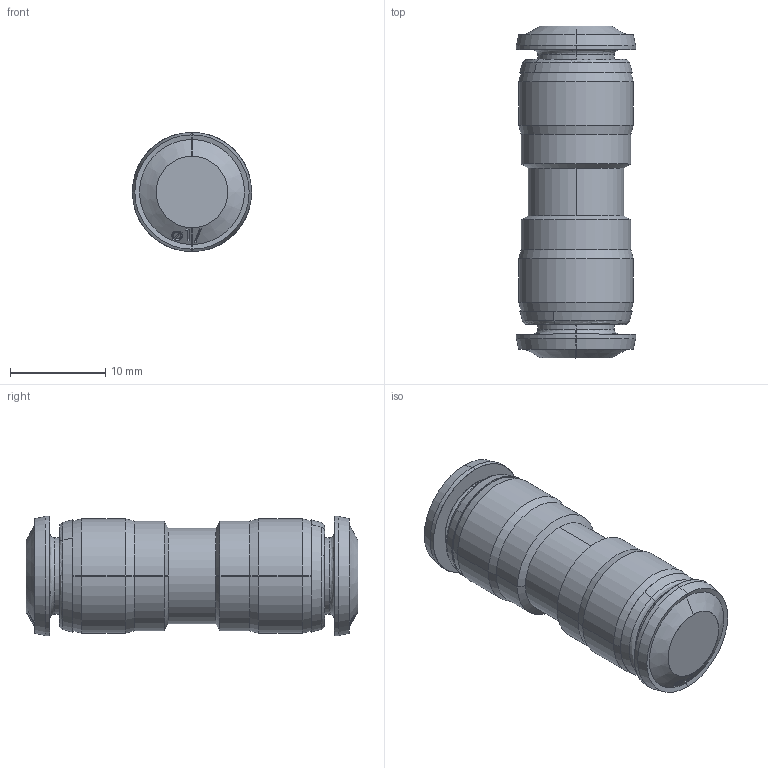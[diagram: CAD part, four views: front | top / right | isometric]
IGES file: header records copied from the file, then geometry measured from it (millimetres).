
Start section: SolidWorks IGES file using analytic representation for surfaces
Global section: file name: C:\Users\Cad01\Desktop\assiemi alfa\85040\8504000005A.igs; native system: SolidWorks 2012; preprocessor: SolidWorks 2012; author: Cad01; date: 121031.152107; units: millimetre
Bounding box: 12.5 x 34.8 x 12.5 mm (x, y, z)
Surface area: 1691.3 mm2 (no closed solid volume)
Topology: 0 solids, 0 shells, 147 faces, 1294 edges, 1294 vertices
Faces by surface type: bspline 89, revolution 58
